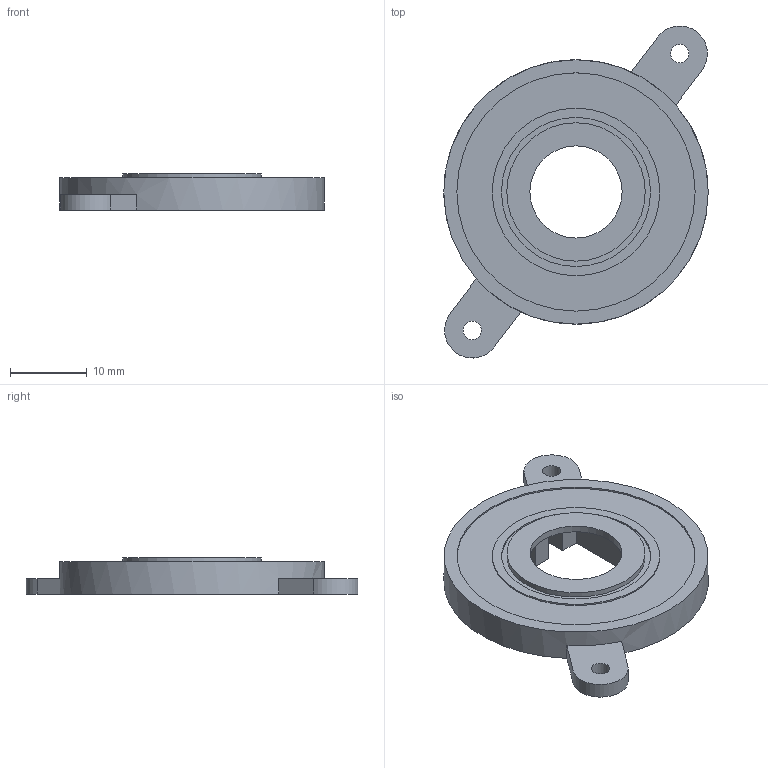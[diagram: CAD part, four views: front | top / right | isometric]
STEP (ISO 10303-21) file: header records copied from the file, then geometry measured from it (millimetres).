
FILE_DESCRIPTION(('Open CASCADE Model'),'2;1');
FILE_NAME('Open CASCADE Shape Model','2026-09-21T11:06:42',('Author'),( 'Open CASCADE'),'Open CASCADE STEP processor 7.7','Open CASCADE 7.7' ,'Unknown');
FILE_SCHEMA(('AUTOMOTIVE_DESIGN { 1 0 10303 214 1 1 1 1 }'));
Length unit declared in the file: millimetre
Products named in the file (1): Open CASCADE STEP translator 7.7 9
Bounding box: 34.4 x 43.19 x 4.7 mm (x, y, z)
Volume: 3340.7 mm3; surface area: 2809.7 mm2
Topology: 1 solids, 1 shells, 53 faces, 123 edges, 82 vertices
Faces by surface type: plane 38, cylinder 15
Full cylindrical faces by diameter (mm): 0.6 x2, 0.84 x3, 2.4 x2, 12 x1, 18 x1, 19.4 x1, 21.8 x1, 31 x1, 34.4 x1
Entity records: 3125 total; most frequent: CARTESIAN_POINT 620, DIRECTION 456, LINE 258, VECTOR 258, ORIENTED_EDGE 246, PCURVE 246, DEFINITIONAL_REPRESENTATION 246, EDGE_CURVE 123
